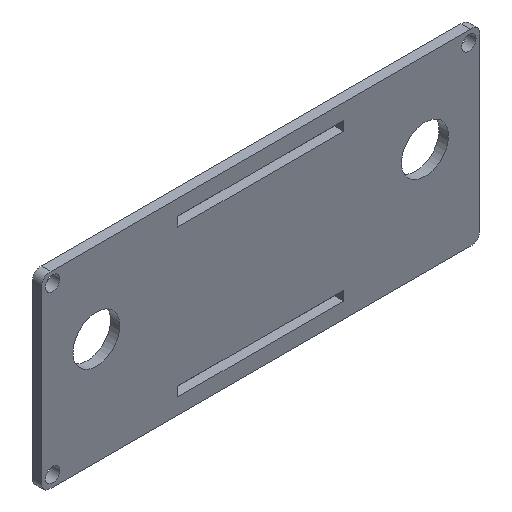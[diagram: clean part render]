
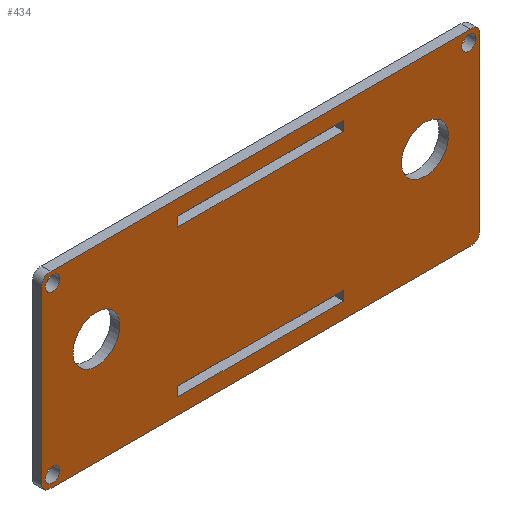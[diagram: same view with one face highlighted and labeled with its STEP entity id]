
A CAD part, isometric view. The second image highlights one B-rep face of the part: STEP entity #434.
In plain terms, the highlighted planar face has unit normal (0, -1, 0).
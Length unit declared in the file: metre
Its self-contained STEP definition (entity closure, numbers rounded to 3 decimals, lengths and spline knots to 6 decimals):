
#25=B_SPLINE_CURVE_WITH_KNOTS('',3,(#706,#707,#708,#709,#710,#711,#712,
#713,#714,#715,#716,#717,#718,#719,#720,#721),.UNSPECIFIED.,.F.,.F.,(4,
3,3,3,3,4),(0.,0.142857,0.285714,0.571429,0.785714,
1.),.PIECEWISE_BEZIER_KNOTS.);
#26=B_SPLINE_CURVE_WITH_KNOTS('',3,(#725,#726,#727,#728,#729,#730,#731,
#732,#733,#734,#735,#736,#737,#738,#739,#740),.UNSPECIFIED.,.F.,.F.,(4,
3,3,3,3,4),(0.,0.142857,0.285714,0.571429,0.785714,
1.),.PIECEWISE_BEZIER_KNOTS.);
#27=B_SPLINE_CURVE_WITH_KNOTS('',3,(#744,#745,#746,#747,#748,#749,#750,
#751,#752,#753,#754,#755,#756,#757,#758,#759),.UNSPECIFIED.,.F.,.F.,(4,
3,3,3,3,4),(0.,0.142857,0.285714,0.571429,0.785714,
1.),.PIECEWISE_BEZIER_KNOTS.);
#28=B_SPLINE_CURVE_WITH_KNOTS('',3,(#763,#764,#765,#766,#767,#768,#769,
#770,#771,#772,#773,#774,#775,#776,#777,#778),.UNSPECIFIED.,.F.,.F.,(4,
3,3,3,3,4),(0.,0.142857,0.285714,0.571429,0.785714,
1.),.PIECEWISE_BEZIER_KNOTS.);
#41=LINE('',#703,#81);
#42=LINE('',#723,#82);
#43=LINE('',#742,#83);
#44=LINE('',#761,#84);
#45=LINE('',#779,#85);
#46=LINE('',#782,#86);
#47=LINE('',#784,#87);
#48=LINE('',#786,#88);
#49=LINE('',#787,#89);
#50=LINE('',#790,#90);
#51=LINE('',#792,#91);
#52=LINE('',#794,#92);
#81=VECTOR('',#526,1.);
#82=VECTOR('',#527,1.);
#83=VECTOR('',#528,1.);
#84=VECTOR('',#529,1.);
#85=VECTOR('',#530,1.);
#86=VECTOR('',#531,1.);
#87=VECTOR('',#532,1.);
#88=VECTOR('',#533,1.);
#89=VECTOR('',#534,1.);
#90=VECTOR('',#535,1.);
#91=VECTOR('',#536,1.);
#92=VECTOR('',#537,1.);
#130=ORIENTED_EDGE('',*,*,#246,.F.);
#131=ORIENTED_EDGE('',*,*,#247,.F.);
#132=ORIENTED_EDGE('',*,*,#248,.F.);
#133=ORIENTED_EDGE('',*,*,#249,.F.);
#134=ORIENTED_EDGE('',*,*,#250,.F.);
#135=ORIENTED_EDGE('',*,*,#251,.F.);
#136=ORIENTED_EDGE('',*,*,#252,.F.);
#137=ORIENTED_EDGE('',*,*,#253,.F.);
#138=ORIENTED_EDGE('',*,*,#254,.T.);
#139=ORIENTED_EDGE('',*,*,#255,.T.);
#140=ORIENTED_EDGE('',*,*,#256,.F.);
#141=ORIENTED_EDGE('',*,*,#257,.F.);
#142=ORIENTED_EDGE('',*,*,#258,.T.);
#143=ORIENTED_EDGE('',*,*,#259,.T.);
#144=ORIENTED_EDGE('',*,*,#260,.F.);
#145=ORIENTED_EDGE('',*,*,#261,.F.);
#146=ORIENTED_EDGE('',*,*,#262,.T.);
#147=ORIENTED_EDGE('',*,*,#263,.T.);
#148=ORIENTED_EDGE('',*,*,#264,.T.);
#149=ORIENTED_EDGE('',*,*,#265,.F.);
#150=ORIENTED_EDGE('',*,*,#266,.T.);
#246=EDGE_CURVE('',#304,#305,#41,.T.);
#247=EDGE_CURVE('',#306,#304,#25,.T.);
#248=EDGE_CURVE('',#307,#306,#42,.T.);
#249=EDGE_CURVE('',#308,#307,#26,.T.);
#250=EDGE_CURVE('',#309,#308,#43,.T.);
#251=EDGE_CURVE('',#310,#309,#27,.T.);
#252=EDGE_CURVE('',#311,#310,#44,.T.);
#253=EDGE_CURVE('',#305,#311,#28,.T.);
#254=EDGE_CURVE('',#312,#313,#45,.T.);
#255=EDGE_CURVE('',#313,#314,#46,.T.);
#256=EDGE_CURVE('',#315,#314,#47,.T.);
#257=EDGE_CURVE('',#312,#315,#48,.T.);
#258=EDGE_CURVE('',#316,#317,#49,.T.);
#259=EDGE_CURVE('',#317,#318,#50,.T.);
#260=EDGE_CURVE('',#319,#318,#51,.T.);
#261=EDGE_CURVE('',#316,#319,#52,.T.);
#262=EDGE_CURVE('',#320,#320,#330,.T.);
#263=EDGE_CURVE('',#321,#321,#331,.T.);
#264=EDGE_CURVE('',#322,#322,#332,.T.);
#265=EDGE_CURVE('',#323,#323,#333,.F.);
#266=EDGE_CURVE('',#324,#324,#334,.T.);
#304=VERTEX_POINT('',#704);
#305=VERTEX_POINT('',#705);
#306=VERTEX_POINT('',#722);
#307=VERTEX_POINT('',#724);
#308=VERTEX_POINT('',#741);
#309=VERTEX_POINT('',#743);
#310=VERTEX_POINT('',#760);
#311=VERTEX_POINT('',#762);
#312=VERTEX_POINT('',#780);
#313=VERTEX_POINT('',#781);
#314=VERTEX_POINT('',#783);
#315=VERTEX_POINT('',#785);
#316=VERTEX_POINT('',#788);
#317=VERTEX_POINT('',#789);
#318=VERTEX_POINT('',#791);
#319=VERTEX_POINT('',#793);
#320=VERTEX_POINT('',#796);
#321=VERTEX_POINT('',#798);
#322=VERTEX_POINT('',#800);
#323=VERTEX_POINT('',#802);
#324=VERTEX_POINT('',#804);
#330=CIRCLE('',#476,0.0023);
#331=CIRCLE('',#477,0.0023);
#332=CIRCLE('',#478,0.0023);
#333=CIRCLE('',#479,0.0075);
#334=CIRCLE('',#480,0.0075);
#343=EDGE_LOOP('',(#130,#131,#132,#133,#134,#135,#136,#137));
#344=EDGE_LOOP('',(#138,#139,#140,#141));
#345=EDGE_LOOP('',(#142,#143,#144,#145));
#346=EDGE_LOOP('',(#146));
#347=EDGE_LOOP('',(#147));
#348=EDGE_LOOP('',(#148));
#349=EDGE_LOOP('',(#149));
#350=EDGE_LOOP('',(#150));
#385=FACE_BOUND('',#343,.T.);
#386=FACE_BOUND('',#344,.T.);
#387=FACE_BOUND('',#345,.T.);
#388=FACE_BOUND('',#346,.T.);
#389=FACE_BOUND('',#347,.T.);
#390=FACE_BOUND('',#348,.T.);
#391=FACE_BOUND('',#349,.T.);
#392=FACE_BOUND('',#350,.T.);
#420=PLANE('',#475);
#434=ADVANCED_FACE('',(#385,#386,#387,#388,#389,#390,#391,#392),#420,.F.);
#475=AXIS2_PLACEMENT_3D('',#702,#524,#525);
#476=AXIS2_PLACEMENT_3D('',#795,#538,#539);
#477=AXIS2_PLACEMENT_3D('',#797,#540,#541);
#478=AXIS2_PLACEMENT_3D('',#799,#542,#543);
#479=AXIS2_PLACEMENT_3D('',#801,#544,#545);
#480=AXIS2_PLACEMENT_3D('',#803,#546,#547);
#524=DIRECTION('',(0.,1.,0.));
#525=DIRECTION('',(1.,0.,0.));
#526=DIRECTION('',(0.,0.,1.));
#527=DIRECTION('',(-1.,0.,0.));
#528=DIRECTION('',(0.,0.,-1.));
#529=DIRECTION('',(1.,0.,0.));
#530=DIRECTION('',(0.,0.,1.));
#531=DIRECTION('',(1.,0.,0.));
#532=DIRECTION('',(0.,0.,1.));
#533=DIRECTION('',(1.,0.,0.));
#534=DIRECTION('',(0.,0.,1.));
#535=DIRECTION('',(1.,0.,0.));
#536=DIRECTION('',(0.,0.,1.));
#537=DIRECTION('',(1.,0.,0.));
#538=DIRECTION('',(0.,1.,0.));
#539=DIRECTION('',(1.,0.,0.));
#540=DIRECTION('',(0.,1.,0.));
#541=DIRECTION('',(1.,0.,0.));
#542=DIRECTION('',(0.,1.,0.));
#543=DIRECTION('',(1.,0.,0.));
#544=DIRECTION('',(0.,1.,0.));
#545=DIRECTION('',(1.,0.,0.));
#546=DIRECTION('',(0.,1.,0.));
#547=DIRECTION('',(1.,0.,0.));
#702=CARTESIAN_POINT('',(0.,0.06,0.));
#703=CARTESIAN_POINT('',(-0.07,0.06,0.));
#704=CARTESIAN_POINT('',(-0.07,0.06,-0.027));
#705=CARTESIAN_POINT('',(-0.07,0.06,0.027));
#706=CARTESIAN_POINT('',(-0.067,0.06,-0.03));
#707=CARTESIAN_POINT('',(-0.067291,0.06,-0.03));
#708=CARTESIAN_POINT('',(-0.067522,0.06,-0.029989));
#709=CARTESIAN_POINT('',(-0.067694,0.06,-0.029967));
#710=CARTESIAN_POINT('',(-0.067931,0.06,-0.029936));
#711=CARTESIAN_POINT('',(-0.068157,0.06,-0.029881));
#712=CARTESIAN_POINT('',(-0.06837,0.06,-0.029802));
#713=CARTESIAN_POINT('',(-0.068837,0.06,-0.029628));
#714=CARTESIAN_POINT('',(-0.069206,0.06,-0.029356));
#715=CARTESIAN_POINT('',(-0.069475,0.06,-0.028987));
#716=CARTESIAN_POINT('',(-0.069673,0.06,-0.028715));
#717=CARTESIAN_POINT('',(-0.069816,0.06,-0.028398));
#718=CARTESIAN_POINT('',(-0.069903,0.06,-0.028037));
#719=CARTESIAN_POINT('',(-0.069968,0.06,-0.027771));
#720=CARTESIAN_POINT('',(-0.07,0.06,-0.027426));
#721=CARTESIAN_POINT('',(-0.07,0.06,-0.027));
#722=CARTESIAN_POINT('',(-0.067,0.06,-0.03));
#723=CARTESIAN_POINT('',(0.,0.06,-0.03));
#724=CARTESIAN_POINT('',(0.067,0.06,-0.03));
#725=CARTESIAN_POINT('',(0.07,0.06,-0.027));
#726=CARTESIAN_POINT('',(0.07,0.06,-0.027291));
#727=CARTESIAN_POINT('',(0.069989,0.06,-0.027522));
#728=CARTESIAN_POINT('',(0.069967,0.06,-0.027694));
#729=CARTESIAN_POINT('',(0.069936,0.06,-0.027931));
#730=CARTESIAN_POINT('',(0.069881,0.06,-0.028157));
#731=CARTESIAN_POINT('',(0.069802,0.06,-0.02837));
#732=CARTESIAN_POINT('',(0.069628,0.06,-0.028837));
#733=CARTESIAN_POINT('',(0.069356,0.06,-0.029206));
#734=CARTESIAN_POINT('',(0.068987,0.06,-0.029475));
#735=CARTESIAN_POINT('',(0.068715,0.06,-0.029673));
#736=CARTESIAN_POINT('',(0.068398,0.06,-0.029816));
#737=CARTESIAN_POINT('',(0.068037,0.06,-0.029903));
#738=CARTESIAN_POINT('',(0.067771,0.06,-0.029968));
#739=CARTESIAN_POINT('',(0.067426,0.06,-0.03));
#740=CARTESIAN_POINT('',(0.067,0.06,-0.03));
#741=CARTESIAN_POINT('',(0.07,0.06,-0.027));
#742=CARTESIAN_POINT('',(0.07,0.06,0.));
#743=CARTESIAN_POINT('',(0.07,0.06,0.027));
#744=CARTESIAN_POINT('',(0.067,0.06,0.03));
#745=CARTESIAN_POINT('',(0.067291,0.06,0.03));
#746=CARTESIAN_POINT('',(0.067522,0.06,0.029989));
#747=CARTESIAN_POINT('',(0.067694,0.06,0.029967));
#748=CARTESIAN_POINT('',(0.067931,0.06,0.029936));
#749=CARTESIAN_POINT('',(0.068157,0.06,0.029881));
#750=CARTESIAN_POINT('',(0.06837,0.06,0.029802));
#751=CARTESIAN_POINT('',(0.068837,0.06,0.029628));
#752=CARTESIAN_POINT('',(0.069206,0.06,0.029356));
#753=CARTESIAN_POINT('',(0.069475,0.06,0.028987));
#754=CARTESIAN_POINT('',(0.069673,0.06,0.028715));
#755=CARTESIAN_POINT('',(0.069816,0.06,0.028398));
#756=CARTESIAN_POINT('',(0.069903,0.06,0.028037));
#757=CARTESIAN_POINT('',(0.069968,0.06,0.027771));
#758=CARTESIAN_POINT('',(0.07,0.06,0.027426));
#759=CARTESIAN_POINT('',(0.07,0.06,0.027));
#760=CARTESIAN_POINT('',(0.067,0.06,0.03));
#761=CARTESIAN_POINT('',(0.,0.06,0.03));
#762=CARTESIAN_POINT('',(-0.067,0.06,0.03));
#763=CARTESIAN_POINT('',(-0.07,0.06,0.027));
#764=CARTESIAN_POINT('',(-0.07,0.06,0.027291));
#765=CARTESIAN_POINT('',(-0.069989,0.06,0.027522));
#766=CARTESIAN_POINT('',(-0.069967,0.06,0.027694));
#767=CARTESIAN_POINT('',(-0.069936,0.06,0.027931));
#768=CARTESIAN_POINT('',(-0.069881,0.06,0.028157));
#769=CARTESIAN_POINT('',(-0.069802,0.06,0.02837));
#770=CARTESIAN_POINT('',(-0.069628,0.06,0.028837));
#771=CARTESIAN_POINT('',(-0.069356,0.06,0.029206));
#772=CARTESIAN_POINT('',(-0.068987,0.06,0.029475));
#773=CARTESIAN_POINT('',(-0.068715,0.06,0.029673));
#774=CARTESIAN_POINT('',(-0.068398,0.06,0.029816));
#775=CARTESIAN_POINT('',(-0.068037,0.06,0.029903));
#776=CARTESIAN_POINT('',(-0.067771,0.06,0.029968));
#777=CARTESIAN_POINT('',(-0.067426,0.06,0.03));
#778=CARTESIAN_POINT('',(-0.067,0.06,0.03));
#779=CARTESIAN_POINT('',(-0.0265,0.06,-0.0235));
#780=CARTESIAN_POINT('',(-0.0265,0.06,-0.025));
#781=CARTESIAN_POINT('',(-0.0265,0.06,-0.022));
#782=CARTESIAN_POINT('',(0.,0.06,-0.022));
#783=CARTESIAN_POINT('',(0.0265,0.06,-0.022));
#784=CARTESIAN_POINT('',(0.0265,0.06,-0.0235));
#785=CARTESIAN_POINT('',(0.0265,0.06,-0.025));
#786=CARTESIAN_POINT('',(0.,0.06,-0.025));
#787=CARTESIAN_POINT('',(-0.0265,0.06,0.0235));
#788=CARTESIAN_POINT('',(-0.0265,0.06,0.022));
#789=CARTESIAN_POINT('',(-0.0265,0.06,0.025));
#790=CARTESIAN_POINT('',(0.,0.06,0.025));
#791=CARTESIAN_POINT('',(0.0265,0.06,0.025));
#792=CARTESIAN_POINT('',(0.0265,0.06,0.0235));
#793=CARTESIAN_POINT('',(0.0265,0.06,0.022));
#794=CARTESIAN_POINT('',(0.,0.06,0.022));
#795=CARTESIAN_POINT('',(-0.0665,0.06,0.0265));
#796=CARTESIAN_POINT('',(-0.0642,0.06,0.0265));
#797=CARTESIAN_POINT('',(-0.0665,0.06,-0.0265));
#798=CARTESIAN_POINT('',(-0.0642,0.06,-0.0265));
#799=CARTESIAN_POINT('',(0.0665,0.06,0.0265));
#800=CARTESIAN_POINT('',(0.0688,0.06,0.0265));
#801=CARTESIAN_POINT('',(0.0525,0.06,0.004));
#802=CARTESIAN_POINT('',(0.06,0.06,0.004));
#803=CARTESIAN_POINT('',(-0.0525,0.06,0.004));
#804=CARTESIAN_POINT('',(-0.045,0.06,0.004));
